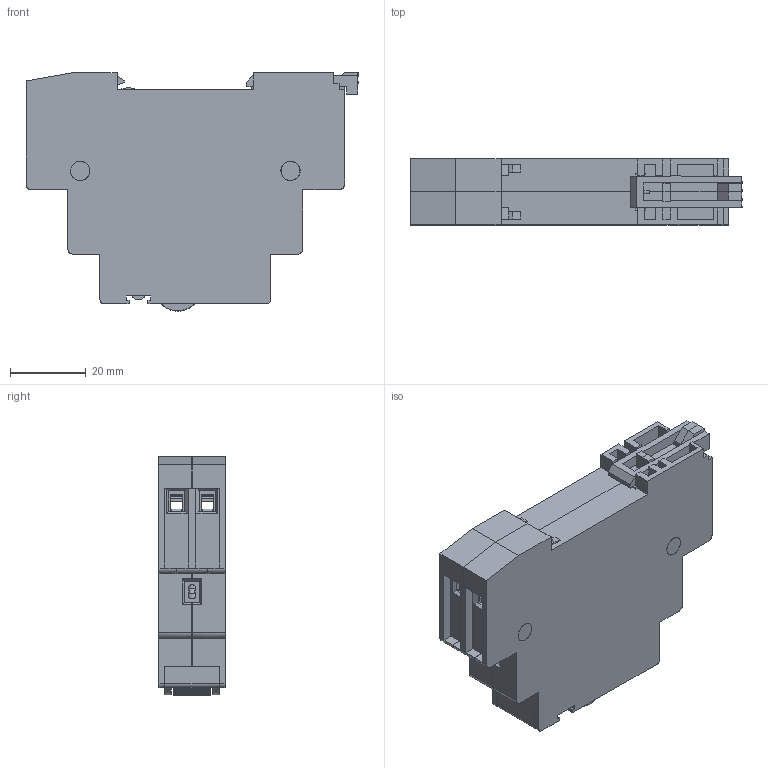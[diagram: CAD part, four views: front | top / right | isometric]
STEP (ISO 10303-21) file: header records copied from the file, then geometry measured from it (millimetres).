
FILE_DESCRIPTION(('STEP AP214'),'2;1');
FILE_NAME('2222.stp','2020-10-09T11:09:28',(''),(''),'2007.1.106','THINKDESIGN','');
FILE_SCHEMA(('AUTOMOTIVE_DESIGN'));
Length unit declared in the file: millimetre
Products named in the file (1): top
Bounding box: 87.5 x 17.4 x 62.8 mm (x, y, z)
Surface area: 17824.8 mm2 (no closed solid volume)
Topology: 0 solids, 0 shells, 756 faces, 4223 edges, 4219 vertices
Faces by surface type: bspline 756
Entity records: 27873 total; most frequent: CARTESIAN_POINT 16883, COMPOSITE_CURVE_SEGMENT 4219, QUASI_UNIFORM_CURVE 3254, OUTER_BOUNDARY_CURVE 756, CURVE_BOUNDED_SURFACE 756, STYLED_ITEM 756, B_SPLINE_SURFACE_WITH_KNOTS 642, B_SPLINE_CURVE_WITH_KNOTS 539
